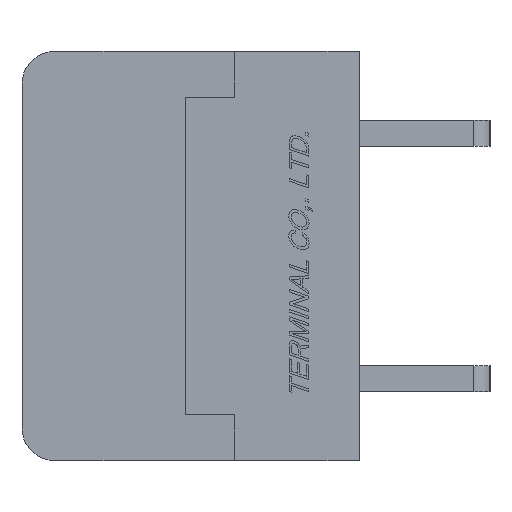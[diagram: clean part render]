
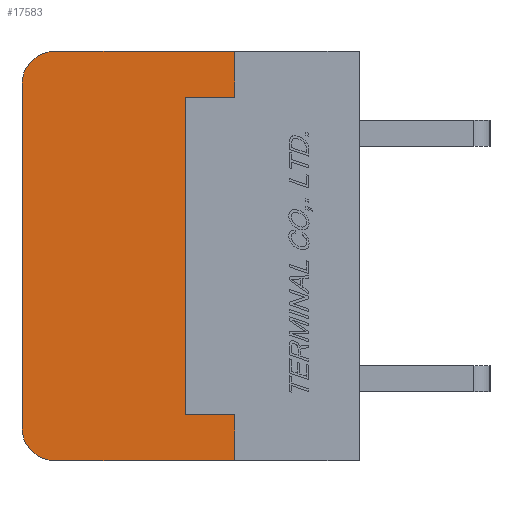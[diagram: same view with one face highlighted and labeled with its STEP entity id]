
A CAD part, left-side view. The second image highlights one B-rep face of the part: STEP entity #17583.
In plain terms, the highlighted planar face has unit normal (-1, 0, 0).
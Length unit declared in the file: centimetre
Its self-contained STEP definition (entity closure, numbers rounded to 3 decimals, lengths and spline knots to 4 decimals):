
#953=CIRCLE('',#29636,0.1);
#955=CIRCLE('',#29639,0.1);
#2378=VERTEX_POINT('',#27089);
#2379=VERTEX_POINT('',#27091);
#2381=VERTEX_POINT('',#27097);
#2383=VERTEX_POINT('',#27103);
#2384=VERTEX_POINT('',#27110);
#2385=VERTEX_POINT('',#27111);
#2386=VERTEX_POINT('',#27114);
#2387=VERTEX_POINT('',#27116);
#2388=VERTEX_POINT('',#27118);
#2389=VERTEX_POINT('',#27120);
#4258=VECTOR('',#21472,1.);
#4264=VECTOR('',#21492,1.);
#4265=VECTOR('',#21493,1.);
#4266=VECTOR('',#21494,1.);
#4267=VECTOR('',#21495,1.);
#4268=VECTOR('',#21496,1.);
#4269=VECTOR('',#21497,1.);
#4270=VECTOR('',#21498,1.);
#6206=LINE('',#27090,#4258);
#6212=LINE('',#27109,#4264);
#6213=LINE('',#27112,#4265);
#6214=LINE('',#27113,#4266);
#6215=LINE('',#27115,#4267);
#6216=LINE('',#27117,#4268);
#6217=LINE('',#27119,#4269);
#6218=LINE('',#27121,#4270);
#8762=EDGE_CURVE('',#2378,#2379,#6206,.T.);
#8766=EDGE_CURVE('',#2381,#2378,#953,.T.);
#8768=EDGE_CURVE('',#2379,#2383,#955,.T.);
#8772=EDGE_CURVE('',#2384,#2385,#6212,.T.);
#8773=EDGE_CURVE('',#2383,#2384,#6213,.T.);
#8774=EDGE_CURVE('',#2386,#2381,#6214,.T.);
#8775=EDGE_CURVE('',#2387,#2386,#6215,.T.);
#8776=EDGE_CURVE('',#2388,#2387,#6216,.T.);
#8777=EDGE_CURVE('',#2389,#2388,#6217,.T.);
#8778=EDGE_CURVE('',#2385,#2389,#6218,.T.);
#13480=ORIENTED_EDGE('',*,*,#8772,.F.);
#13481=ORIENTED_EDGE('',*,*,#8773,.F.);
#13482=ORIENTED_EDGE('',*,*,#8768,.F.);
#13483=ORIENTED_EDGE('',*,*,#8762,.F.);
#13484=ORIENTED_EDGE('',*,*,#8766,.F.);
#13485=ORIENTED_EDGE('',*,*,#8774,.F.);
#13486=ORIENTED_EDGE('',*,*,#8775,.F.);
#13487=ORIENTED_EDGE('',*,*,#8776,.F.);
#13488=ORIENTED_EDGE('',*,*,#8777,.F.);
#13489=ORIENTED_EDGE('',*,*,#8778,.F.);
#15473=EDGE_LOOP('',(#13480,#13481,#13482,#13483,#13484,#13485,#13486,#13487,
#13488,#13489));
#16559=FACE_BOUND('',#15473,.T.);
#17583=ADVANCED_FACE('',(#16559),#18331,.F.);
#18331=PLANE('',#29641);
#21472=DIRECTION('',(0.,0.,1.));
#21479=DIRECTION('',(1.,0.,0.));
#21480=DIRECTION('',(0.,0.,-0.1));
#21485=DIRECTION('',(1.,0.,0.));
#21486=DIRECTION('',(0.,0.,-0.1));
#21491=DIRECTION('',(1.,0.,0.));
#21492=DIRECTION('',(0.,0.,-1.));
#21493=DIRECTION('',(0.,-1.,0.));
#21494=DIRECTION('',(0.,1.,0.));
#21495=DIRECTION('',(0.,0.,-1.));
#21496=DIRECTION('',(0.,-1.,0.));
#21497=DIRECTION('',(0.,0.,-1.));
#21498=DIRECTION('',(0.,1.,0.));
#27089=CARTESIAN_POINT('',(-0.762,1.03,-0.525));
#27090=CARTESIAN_POINT('',(-0.762,1.03,-0.525));
#27091=CARTESIAN_POINT('',(-0.762,1.03,0.525));
#27097=CARTESIAN_POINT('',(-0.762,0.93,-0.625));
#27098=CARTESIAN_POINT('',(-0.762,0.93,-0.525));
#27102=CARTESIAN_POINT('',(-0.762,0.93,0.525));
#27103=CARTESIAN_POINT('',(-0.762,0.93,0.625));
#27108=CARTESIAN_POINT('',(-0.762,0.5047,0.));
#27109=CARTESIAN_POINT('',(-0.762,0.38,0.625));
#27110=CARTESIAN_POINT('',(-0.762,0.38,0.625));
#27111=CARTESIAN_POINT('',(-0.762,0.38,0.485));
#27112=CARTESIAN_POINT('',(-0.762,0.93,0.625));
#27113=CARTESIAN_POINT('',(-0.762,0.,-0.625));
#27114=CARTESIAN_POINT('',(-0.762,0.38,-0.625));
#27115=CARTESIAN_POINT('',(-0.762,0.38,-0.485));
#27116=CARTESIAN_POINT('',(-0.762,0.38,-0.485));
#27117=CARTESIAN_POINT('',(-0.762,0.53,-0.485));
#27118=CARTESIAN_POINT('',(-0.762,0.53,-0.485));
#27119=CARTESIAN_POINT('',(-0.762,0.53,0.485));
#27120=CARTESIAN_POINT('',(-0.762,0.53,0.485));
#27121=CARTESIAN_POINT('',(-0.762,0.38,0.485));
#29636=AXIS2_PLACEMENT_3D('',#27098,#21479,#21480);
#29639=AXIS2_PLACEMENT_3D('',#27102,#21485,#21486);
#29641=AXIS2_PLACEMENT_3D('',#27108,#21491,$);
